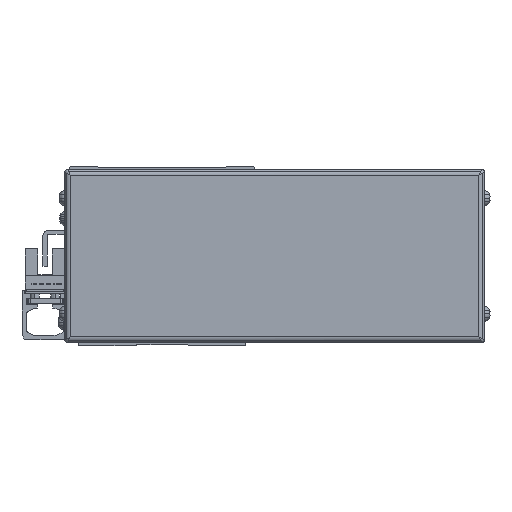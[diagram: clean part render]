
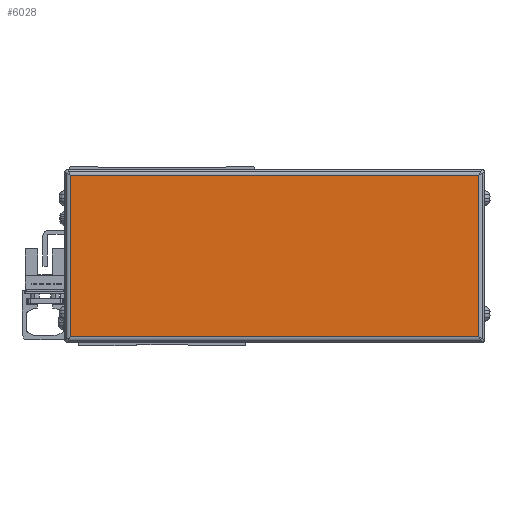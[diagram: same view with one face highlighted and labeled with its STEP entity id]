
A CAD part, front view. The second image highlights one B-rep face of the part: STEP entity #6028.
In plain terms, the highlighted planar face has unit normal (0, -1, 0).
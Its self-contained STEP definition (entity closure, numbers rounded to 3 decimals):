
#6028=ADVANCED_FACE('',(#12545),#12546,.T.);
#12545=FACE_OUTER_BOUND('',#20674,.T.);
#12546=PLANE('',#20675);
#20674=EDGE_LOOP('',(#37295,#37296,#37297,#37298));
#20675=AXIS2_PLACEMENT_3D('',#37299,#37300,#37301);
#37295=ORIENTED_EDGE('',*,*,#48818,.F.);
#37296=ORIENTED_EDGE('',*,*,#49841,.F.);
#37297=ORIENTED_EDGE('',*,*,#44066,.F.);
#37298=ORIENTED_EDGE('',*,*,#50591,.F.);
#37299=CARTESIAN_POINT('',(339.,6.,-4.));
#37300=DIRECTION('',(0.,-1.0,0.));
#37301=DIRECTION('',(0.,0.,1.0));
#44066=EDGE_CURVE('',#52428,#52430,#52431,.T.);
#48818=EDGE_CURVE('',#59919,#56909,#60140,.T.);
#49841=EDGE_CURVE('',#52430,#59919,#61506,.T.);
#50591=EDGE_CURVE('',#56909,#52428,#62404,.T.);
#52428=VERTEX_POINT('',#64606);
#52430=VERTEX_POINT('',#64608);
#52431=LINE('',#64609,#64610);
#56909=VERTEX_POINT('',#70795);
#59919=VERTEX_POINT('',#75294);
#60140=LINE('',#75607,#75608);
#61506=LINE('',#77551,#77552);
#62404=LINE('',#78855,#78856);
#64606=CARTESIAN_POINT('',(409.7,6.,-32.));
#64608=CARTESIAN_POINT('',(268.3,6.,-32.));
#64609=CARTESIAN_POINT('',(339.,6.,-32.));
#64610=VECTOR('',#81102,10.0);
#70795=CARTESIAN_POINT('',(409.7,6.,24.));
#75294=CARTESIAN_POINT('',(268.3,6.,24.));
#75607=CARTESIAN_POINT('',(339.,6.,24.));
#75608=VECTOR('',#86941,10.0);
#77551=CARTESIAN_POINT('',(268.3,6.,-4.));
#77552=VECTOR('',#88028,10.0);
#78855=CARTESIAN_POINT('',(409.7,6.,-4.));
#78856=VECTOR('',#88742,10.0);
#81102=DIRECTION('',(-1.0,0.,0.));
#86941=DIRECTION('',(1.0,0.,0.));
#88028=DIRECTION('',(0.,0.,1.0));
#88742=DIRECTION('',(0.,0.,-1.0));
